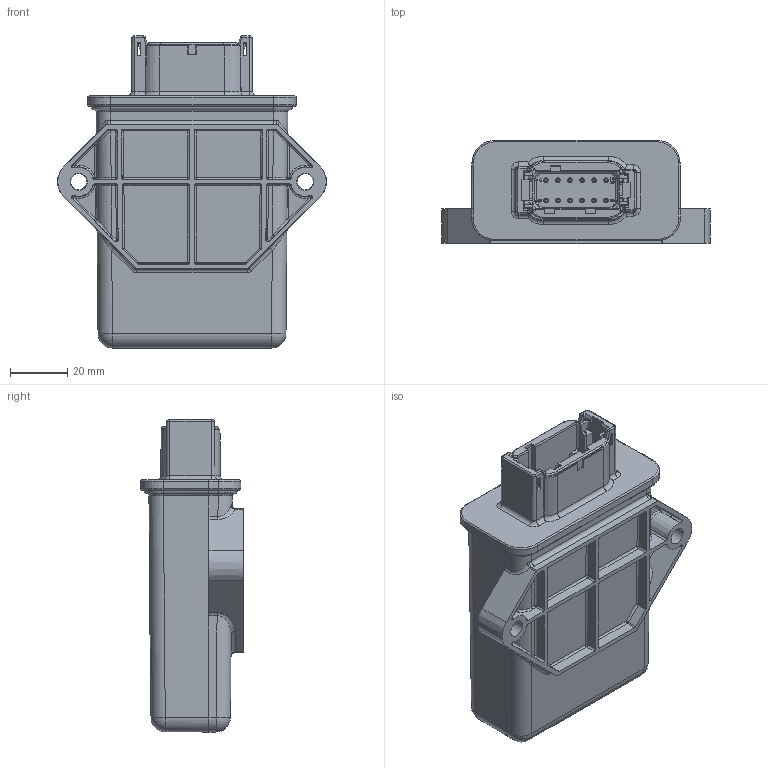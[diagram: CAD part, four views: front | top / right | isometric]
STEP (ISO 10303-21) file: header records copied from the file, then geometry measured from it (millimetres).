
FILE_DESCRIPTION(/* description */ (''),/* implementation_level */ '2;1');
FILE_NAME(/* name */ 'S:\Projects\2UIN-2DOUT-2AOUT-5VREF-CAN, AX031530, Proj_21036\UNIT ASSEMBLY\RELEASED\P1\AX031530.stp',/* time_stamp */ '2023-07-13T16:58:21-04:00',/* author */ ('tfisher'),/* organization */ (''),/* preprocessor_version */ 'ST-DEVELOPER v18.1',/* originating_system */ 'Autodesk Inventor 2021',/* authorisation */ '');
FILE_SCHEMA (('AUTOMOTIVE_DESIGN { 1 0 10303 214 3 1 1 }'));
Products named in the file (1): AX031530
Bounding box: 93.6 x 35.84 x 108.66 mm (x, y, z)
Volume: 177025.9 mm3; surface area: 32406.7 mm2
Topology: 1 solids, 1 shells, 1532 faces, 3983 edges, 2524 vertices
Faces by surface type: plane 881, cylinder 248, bspline 233, sphere 72, cone 58, torus 40
Full cylindrical faces by diameter (mm): 0.991 x12
Entity records: 51273 total; most frequent: CARTESIAN_POINT 13561, ORIENTED_EDGE 7914, DIRECTION 6761, EDGE_CURVE 3957, LINE 2769, VECTOR 2769, VERTEX_POINT 2524, AXIS2_PLACEMENT_3D 1996
